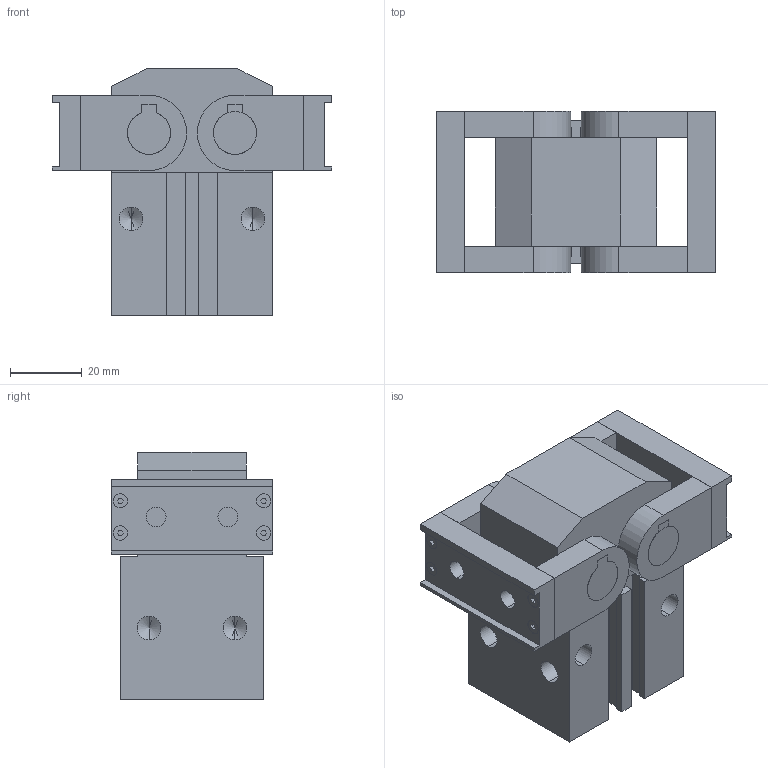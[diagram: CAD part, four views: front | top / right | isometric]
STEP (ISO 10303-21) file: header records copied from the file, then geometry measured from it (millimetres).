
FILE_DESCRIPTION (( 'STEP AP203' ), '1' );
FILE_NAME ('GHK 25 open.STEP', '2013-03-04T09:48:18', ( 'Conseil Régional Haute-Normandie' ), ( 'Conseil Régional Haute-Normandie' ), 'SwSTEP 2.0', 'SolidWorks 2010', '' );
FILE_SCHEMA (( 'CONFIG_CONTROL_DESIGN' ));
Length unit declared in the file: millimetre
Products named in the file (5): Pièce3 ghk_Default; Pièce5 GHK25_Default; Pièce4 GHK25_Default; Pièce1 GHK25_Default; GHK 25 open
Assembly tree (9 placements, depth 2):
  GHK 25 open
    Pièce4 GHK25_Default  x2
    Pièce5 GHK25_Default  x4
    Pièce3 ghk_Default  x2
    Pièce1 GHK25_Default
Bounding box: 78 x 45 x 69 mm (x, y, z)
Volume: 127192.5 mm3; surface area: 36199 mm2
Topology: 9 solids, 9 shells, 285 faces, 715 edges, 457 vertices
Faces by surface type: plane 193, cylinder 72, cone 20
Entity records: 5961 total; most frequent: CARTESIAN_POINT 935, DIRECTION 914, ORIENTED_EDGE 880, EDGE_CURVE 440, LINE 342, VECTOR 342, VERTEX_POINT 287, AXIS2_PLACEMENT_3D 286
